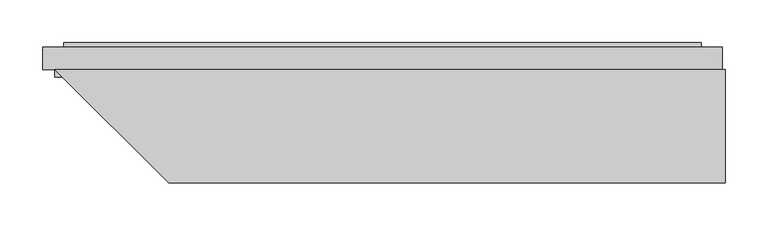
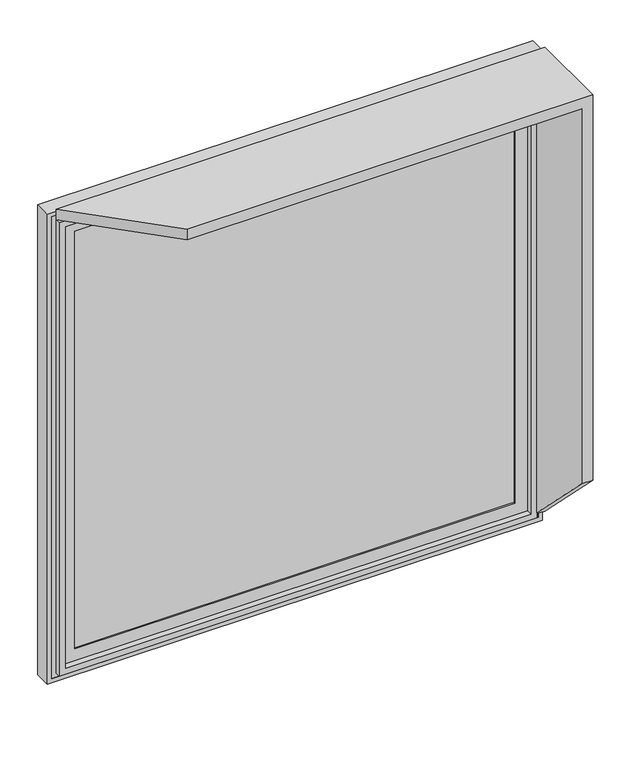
"""IFC4 building model written with IfcOpenShell, lengths in millimetres: plate geometry, SCISSOR PANEL : SCISSOR PANEL."""

from ifc_helpers import new_model, si_unit, frame, origin, place, context, project, spatial, polyline, outline, extrude, faceted_brep, source, transform, mapped, element, save


def plate_4b29639f(model_context):
    return source(origin(), model_context, "Body", "SolidModel", [
        faceted_brep([(381.4048282, 132.5, 17.5), (381.4048282, 132.5, 782.5), (-381.4048282, 132.5, 782.5), (-381.4048282, 132.5, 800.0), (398.9048282, 132.5, 800.0), (398.9048282, 132.5, 17.5), (381.4048282, 0.0, 150.0), (381.4048282, 0.0, 782.5), (398.9048282, 0.0, 150.0), (-248.9048282, 0.0, 782.5), (-248.9048282, 0.0, 800.0), (398.9048282, 0.0, 800.0)], [[[0, 1, 2, 3, 4, 5]], [[1, 0, 6, 7]], [[8, 6, 0, 5]], [[9, 10, 3, 2]], [[8, 11, 10, 9, 7, 6]], [[4, 11, 8, 5]], [[11, 4, 3, 10]], [[2, 1, 7, 9]]]),
        extrude(outline(polyline([(-368.4048282, 160.5), (368.4048282, 160.5), (368.4048282, 135.5), (-368.4048282, 135.5), (-368.4048282, 160.5)])), frame((0.0, 0.0, 30.5), z_axis=(0.0, 0.0, 1.0), x_axis=(1.0, 0.0, 0.0)), (0.0, 0.0, 1.0), 739.0),
        faceted_brep([(-351.4048282, 135.5, 752.5), (-351.4048282, 132.5, 752.5), (-351.4048282, 132.5, 47.5), (-351.4048282, 135.5, 47.5), (-368.4048282, 160.5, 769.5), (-368.4048282, 135.5, 769.5), (-368.4048282, 135.5, 30.5), (-368.4048282, 160.5, 30.5), (-351.4048282, 163.5, 752.5), (-351.4048282, 160.5, 752.5), (-351.4048282, 160.5, 47.5), (-351.4048282, 163.5, 47.5), (-371.4048282, 132.5, 772.5), (-371.4048282, 163.5, 772.5), (-371.4048282, 163.5, 27.5), (-371.4048282, 132.5, 27.5), (351.4048282, 132.5, 47.5), (351.4048282, 135.5, 47.5), (368.4048282, 135.5, 30.5), (368.4048282, 160.5, 30.5), (351.4048282, 160.5, 47.5), (351.4048282, 163.5, 47.5), (371.4048282, 163.5, 27.5), (371.4048282, 132.5, 27.5), (351.4048282, 132.5, 752.5), (351.4048282, 135.5, 752.5), (368.4048282, 135.5, 769.5), (368.4048282, 160.5, 769.5), (351.4048282, 160.5, 752.5), (351.4048282, 163.5, 752.5), (371.4048282, 163.5, 772.5), (371.4048282, 132.5, 772.5)], [[[0, 1, 2, 3]], [[4, 5, 6, 7]], [[8, 9, 10, 11]], [[12, 13, 14, 15]], [[3, 2, 16, 17]], [[7, 6, 18, 19]], [[11, 10, 20, 21]], [[15, 14, 22, 23]], [[17, 16, 24, 25]], [[19, 18, 26, 27]], [[21, 20, 28, 29]], [[23, 22, 30, 31]], [[15, 23, 31, 12], [1, 24, 16, 2]], [[25, 24, 1, 0]], [[5, 26, 18, 6], [3, 17, 25, 0]], [[27, 26, 5, 4]], [[7, 19, 27, 4], [9, 28, 20, 10]], [[29, 28, 9, 8]], [[13, 30, 22, 14], [11, 21, 29, 8]], [[31, 30, 13, 12]]]),
        faceted_brep([(-395.4048282, 132.5, 796.5), (-395.4048282, 158.75, 796.5), (-395.4048282, 158.75, 3.5), (-395.4048282, 132.5, 3.5), (-388.4048282, 150.0, 789.5), (-388.4048282, 132.5, 789.5), (-388.4048282, 132.5, 10.5), (-388.4048282, 150.0, 10.5), (-381.4048282, 123.75, 782.5), (-381.4048282, 150.0, 782.5), (-381.4048282, 150.0, 17.5), (-381.4048282, 123.75, 17.5), (-371.4048282, 158.75, 772.5), (-371.4048282, 123.75, 772.5), (-371.4048282, 123.75, 27.5), (-371.4048282, 158.75, 27.5), (395.4048282, 158.75, 3.5), (395.4048282, 132.5, 3.5), (388.4048282, 132.5, 10.5), (388.4048282, 150.0, 10.5), (381.4048282, 150.0, 17.5), (381.4048282, 123.75, 17.5), (371.4048282, 123.75, 27.5), (371.4048282, 158.75, 27.5), (395.4048282, 158.75, 796.5), (395.4048282, 132.5, 796.5), (388.4048282, 132.5, 789.5), (388.4048282, 150.0, 789.5), (381.4048282, 150.0, 782.5), (381.4048282, 123.75, 782.5), (371.4048282, 123.75, 772.5), (371.4048282, 158.75, 772.5)], [[[0, 1, 2, 3]], [[4, 5, 6, 7]], [[8, 9, 10, 11]], [[12, 13, 14, 15]], [[3, 2, 16, 17]], [[7, 6, 18, 19]], [[11, 10, 20, 21]], [[15, 14, 22, 23]], [[17, 16, 24, 25]], [[19, 18, 26, 27]], [[21, 20, 28, 29]], [[23, 22, 30, 31]], [[25, 24, 1, 0]], [[3, 17, 25, 0], [5, 26, 18, 6]], [[27, 26, 5, 4]], [[7, 19, 27, 4], [9, 28, 20, 10]], [[29, 28, 9, 8]], [[11, 21, 29, 8], [13, 30, 22, 14]], [[31, 30, 13, 12]], [[1, 24, 16, 2], [15, 23, 31, 12]]]),
        extrude(outline(polyline([(789.5, -388.4048282), (10.5, -388.4048282), (10.5, 388.4048282), (789.5, 388.4048282), (789.5, -388.4048282)]), holes=[polyline([(782.5, -381.4048282), (782.5, 381.4048282), (17.5, 381.4048282), (17.5, -381.4048282), (782.5, -381.4048282)])]), frame((0.0, 132.5, 0.0), z_axis=(0.0, 1.0, 0.0), x_axis=(0.0, 0.0, 1.0)), (0.0, 0.0, 1.0), 17.5),
    ])


if __name__ == "__main__":
    model = new_model("IFC4")
    model_context = context("Model", 3, world=origin())
    ifc_project = project(units=[si_unit("LENGTHUNIT", "METRE", prefix="MILLI")], contexts=[model_context])
    site = spatial("IfcSite", under=ifc_project)
    building = spatial("IfcBuilding", under=site)
    placement = place(None, origin())
    plate_shape = plate_4b29639f(model_context)
    element("IfcPlate", 1, ObjectType="SCISSOR PANEL : SCISSOR PANEL", at=placement, inside=building, context=model_context, shape_type="MappedRepresentation", body=[
        mapped(plate_shape, transform((0.0, 0.0, 0.0), x_axis=(1.0, 0.0, 0.0), y_axis=(0.0, 1.0, 0.0), z_axis=(0.0, 0.0, 1.0))),
    ])
    save(model, "model.ifc")
